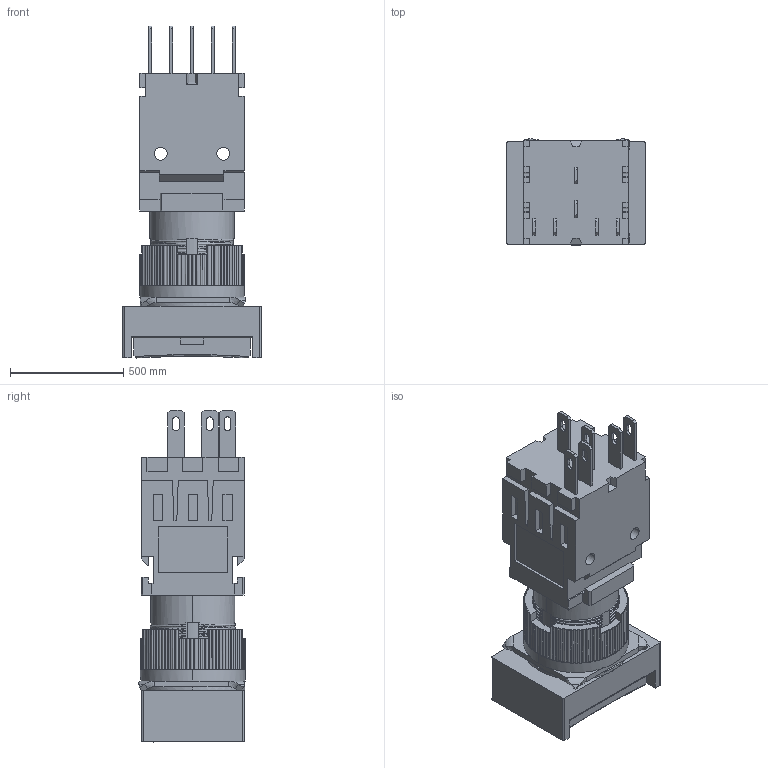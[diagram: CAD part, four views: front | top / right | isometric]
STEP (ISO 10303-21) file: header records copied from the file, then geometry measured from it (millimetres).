
FILE_DESCRIPTION((''),'2;1');
FILE_NAME('ASM0012_ASM','2016-06-03T',('Administrator'),(''),'PRO/ENGINEER BY PARAMETRIC TECHNOLOGY CORPORATION, 2012360','PRO/ENGINEER BY PARAMETRIC TECHNOLOGY CORPORATION, 2012360','');
FILE_SCHEMA(('CONFIG_CONTROL_DESIGN'));
Length unit declared in the file: inch
Products named in the file (1): ASM0012_ASM
Bounding box: 609.6 x 469.52 x 1463.04 mm (x, y, z)
Volume: 228538752.9 mm3; surface area: 4909762.3 mm2
Topology: 1 solids, 9 shells, 915 faces, 2488 edges, 1601 vertices
Faces by surface type: plane 456, cylinder 364, bspline 93, torus 2
Entity records: 40501 total; most frequent: CARTESIAN_POINT 18106, ORIENTED_EDGE 4976, DIRECTION 4248, EDGE_CURVE 2488, VERTEX_POINT 1601, AXIS2_PLACEMENT_3D 1454, VECTOR 1340, LINE 1340
